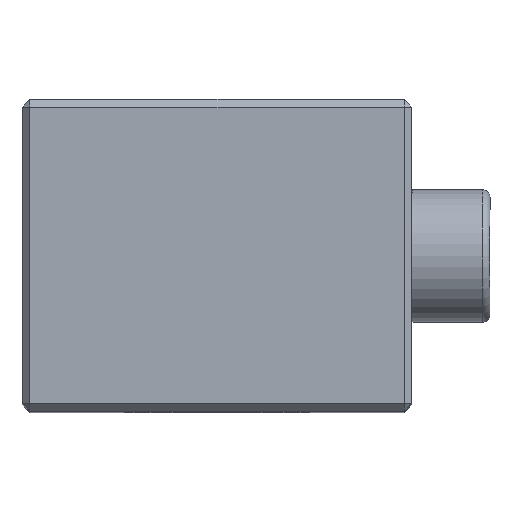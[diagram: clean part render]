
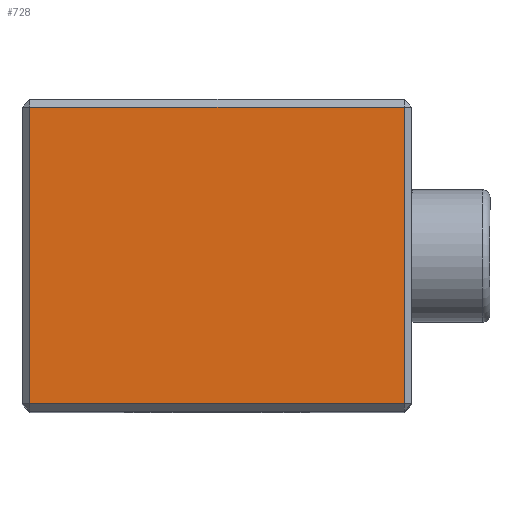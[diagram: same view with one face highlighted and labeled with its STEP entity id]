
A CAD part, top view. The second image highlights one B-rep face of the part: STEP entity #728.
In plain terms, the highlighted planar face has unit normal (0, 0, 1).
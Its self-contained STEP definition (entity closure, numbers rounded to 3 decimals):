
#146=CARTESIAN_POINT('',(12.,19.5,25.0));
#147=VERTEX_POINT('',#146);
#264=CARTESIAN_POINT('',(-12.0,19.5,25.0));
#265=VERTEX_POINT('',#264);
#318=CARTESIAN_POINT('',(12.,0.5,25.0));
#319=VERTEX_POINT('',#318);
#378=CARTESIAN_POINT('',(12.,19.5,25.0));
#379=DIRECTION('',(0.0,-1.0,0.0));
#380=VECTOR('',#379,19.0);
#381=LINE('',#378,#380);
#382=EDGE_CURVE('',#147,#319,#381,.T.);
#426=CARTESIAN_POINT('',(-12.,0.5,25.0));
#427=VERTEX_POINT('',#426);
#486=CARTESIAN_POINT('',(12.,0.5,25.0));
#487=DIRECTION('',(-1.0,0.0,0.0));
#488=VECTOR('',#487,24.);
#489=LINE('',#486,#488);
#490=EDGE_CURVE('',#319,#427,#489,.T.);
#508=CARTESIAN_POINT('',(-12.,0.5,25.0));
#509=DIRECTION('',(0.0,1.0,0.0));
#510=VECTOR('',#509,19.0);
#511=LINE('',#508,#510);
#512=EDGE_CURVE('',#427,#265,#511,.T.);
#574=CARTESIAN_POINT('',(-12.0,19.5,25.0));
#575=DIRECTION('',(1.0,0.0,0.0));
#576=VECTOR('',#575,24.);
#577=LINE('',#574,#576);
#578=EDGE_CURVE('',#265,#147,#577,.T.);
#717=CARTESIAN_POINT('',(0.,10.,25.0));
#718=DIRECTION('',(0.0,0.0,1.0));
#719=DIRECTION('',(1.0,0.0,0.0));
#720=AXIS2_PLACEMENT_3D('',#717,#718,#719);
#721=PLANE('',#720);
#722=ORIENTED_EDGE('',*,*,#382,.F.);
#723=ORIENTED_EDGE('',*,*,#578,.F.);
#724=ORIENTED_EDGE('',*,*,#512,.F.);
#725=ORIENTED_EDGE('',*,*,#490,.F.);
#726=EDGE_LOOP('',(#722,#723,#724,#725));
#727=FACE_OUTER_BOUND('',#726,.T.);
#728=ADVANCED_FACE('',(#727),#721,.T.);
